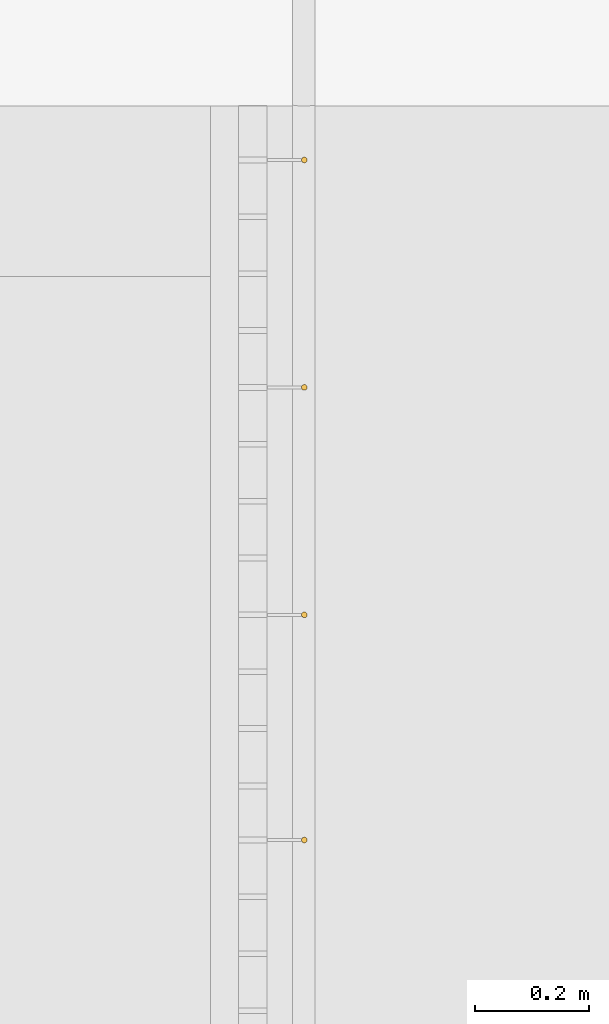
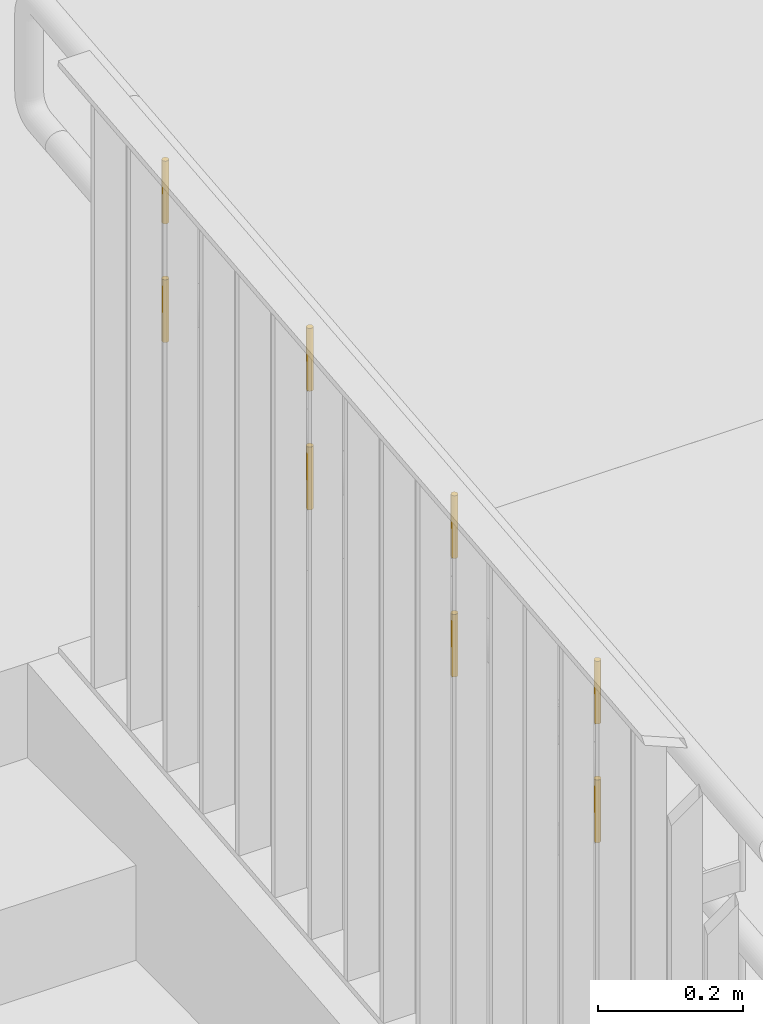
# One storey, part 158 of 418: 8 railings.
"""IFC2X3 building model written with IfcOpenShell, lengths in millimetres."""

from ifc_helpers import new_model, entity, si_unit, converted_unit, derived_unit, money_unit, direction, frame, origin_with_axes, origin_2d_with_axis, place, context, subcontext, project, spatial, circle, extrude, material, type_object, element, save


model = new_model("IFC2X3")

# Units and contexts
model_context = context("Model", 3, precision=0.01, world=origin_with_axes(), true_north=direction((0.0, 1.0)))
body_context = subcontext(model_context, "Body", "Model", "MODEL_VIEW")
ifc_project = project(units=[si_unit("LENGTHUNIT", "METRE", prefix="MILLI"), si_unit("AREAUNIT", "SQUARE_METRE"), si_unit("VOLUMEUNIT", "CUBIC_METRE"), converted_unit("PLANEANGLEUNIT", "DEGREE", entity("IfcPlaneAngleMeasure", 0.0174532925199), si_unit("PLANEANGLEUNIT", "RADIAN"), dimensions=[0, 0, 0, 0, 0, 0, 0]), si_unit("SOLIDANGLEUNIT", "STERADIAN"), money_unit("EUR"), converted_unit("TIMEUNIT", "Year", entity("IfcTimeMeasure", 31556926.0), si_unit("TIMEUNIT", "SECOND"), dimensions=[0, 0, 1, 0, 0, 0, 0]), si_unit("MASSUNIT", "GRAM", prefix="KILO"), si_unit("THERMODYNAMICTEMPERATUREUNIT", "DEGREE_CELSIUS"), si_unit("LUMINOUSINTENSITYUNIT", "LUMEN"), si_unit("ENERGYUNIT", "JOULE", prefix="MEGA"), derived_unit("THERMALCONDUCTANCEUNIT", [(si_unit("POWERUNIT", "WATT"), 1), (si_unit("LENGTHUNIT", "METRE"), -1), (si_unit("THERMODYNAMICTEMPERATUREUNIT", "KELVIN"), -1)]), derived_unit("SPECIFICHEATCAPACITYUNIT", [(si_unit("ENERGYUNIT", "JOULE"), 1), (si_unit("MASSUNIT", "GRAM", prefix="KILO"), -1), (si_unit("THERMODYNAMICTEMPERATUREUNIT", "KELVIN"), -1)]), derived_unit("MASSDENSITYUNIT", [(si_unit("MASSUNIT", "GRAM", prefix="KILO"), 1), (si_unit("VOLUMEUNIT", "CUBIC_METRE"), -1)])], contexts=[model_context])

# Site, building, storey
site_placement = place(None, origin_with_axes())
site = spatial("IfcSite", under=ifc_project, at=site_placement, Name="Paldiski mnt 245/1, Tallinn, Harjumaa", CompositionType="COMPLEX")
building_placement = place(site_placement, origin_with_axes())
building = spatial("IfcBuilding", under=site, at=building_placement, Name="RKAS Hoone üldnimetus (kasutust iseloomustav) -> IFC Project Manager -> SOLIBRI", CompositionType="ELEMENT")
storey_placement = place(building_placement, origin_with_axes())
storey = spatial("IfcBuildingStorey", under=building, at=storey_placement, Name="Esimene korrus", CompositionType="ELEMENT", Elevation=0.0)

# Railings
ifc_material = material(Name="ET-07_Teras - Roostevaba")
railing_type = type_object("IfcRailingType", Name="ET-07_Teras - Roostevaba D10", PredefinedType="NOTDEFINED")
for number, where, z_axis, x_axis in (
    (1, (-40745.9992191, -15725.0843011, 684.800460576), (0.0, 0.0, 1.0), (-1.0, 0.0, 0.0)),
    (2, (-40745.9992191, -15725.0843011, 484.378560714), (0.0, 0.0, 1.0), (-1.0, 0.0, 0.0)),
    (3, (-40745.9992191, -16521.0843011, 605.200411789), (0.0, 0.0, 1.0), (-1.0, 0.0, 0.0)),
    (4, (-40745.9992191, -15325.0843011, 524.378591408), (0.0, 0.0, 1.0), (-1.0, 0.0, 0.0)),
    (5, (-40745.9992191, -15325.0843011, 724.80049127), (0.0, 0.0, 1.0), (-1.0, 0.0, 0.0)),
    (6, (-40745.9992191, -16125.0843011, 644.800438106), (0.0, 0.0, 1.0), (-1.0, 0.0, 0.0)),
    (7, (-40745.9992191, -16125.0843011, 444.378538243), (0.0, 0.0, 1.0), (-1.0, 0.0, 0.0)),
    (8, (-40745.9992191, -16521.0843011, 404.778511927), (0.0, 0.0, 1.0), (-1.0, 0.0, 0.0)),
):
    element("IfcRailing", number, at=place(storey_placement, frame(where, z_axis=z_axis, x_axis=x_axis)), inside=storey, type_object=railing_type, material=ifc_material, Name="Trepipiire", PredefinedType="NOTDEFINED", context=body_context, shape_type="SweptSolid", body=[
        extrude(circle(Radius=5.0, at=origin_2d_with_axis()), frame((0.0, 0.0, 0.0), z_axis=(0.0, 0.0, -1.0), x_axis=(-1.0, 0.0, 0.0)), (0.0, 0.0, -1.0), 106.0),
    ])

save(model, "model.ifc")
